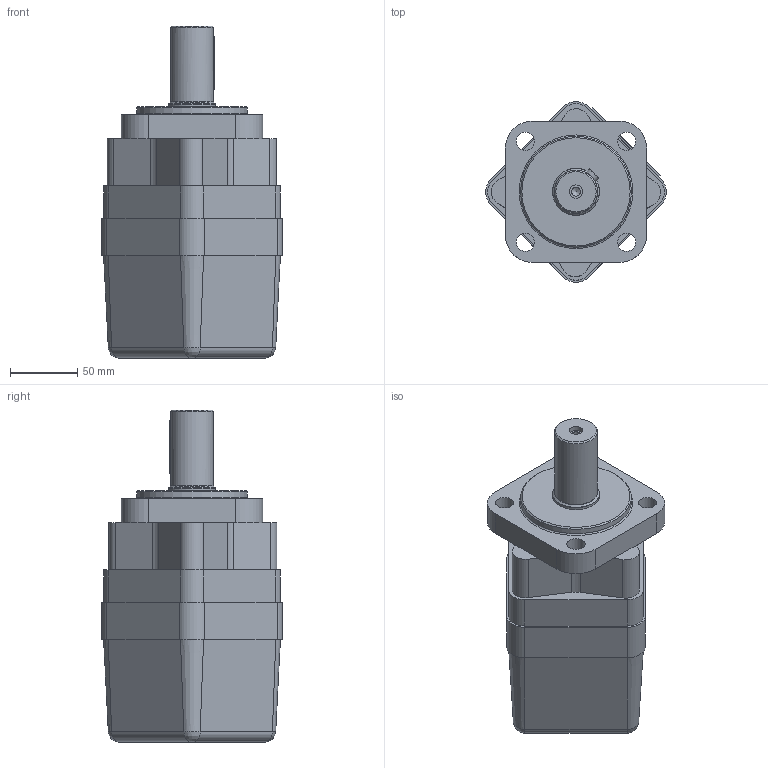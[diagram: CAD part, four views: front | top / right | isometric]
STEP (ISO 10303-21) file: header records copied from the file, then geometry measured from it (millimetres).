
FILE_DESCRIPTION((''),'2;1');
FILE_NAME('E:\Users\crisanl\Desktop\oms160.stp','2012-03-09T08:53:23',('CrisanL'),(''),'Autodesk Inventor 2011','Autodesk Inventor 2011','');
FILE_SCHEMA(('AUTOMOTIVE_DESIGN { 1 0 10303 214 1 1 1 1 }'));
Length unit declared in the file: millimetre
Products named in the file (1): 0221272M
Bounding box: 134.38 x 134.38 x 247 mm (x, y, z)
Volume: 1756753.1 mm3; surface area: 111396 mm2
Topology: 2 solids, 2 shells, 121 faces, 302 edges, 194 vertices
Faces by surface type: plane 56, cylinder 45, cone 13, bspline 4, torus 3
Full cylindrical faces by diameter (mm): 6.647 x1, 8.376 x2, 10 x1, 11.445 x1, 13.5 x4, 19.5 x2, 20 x1, 32 x1, 35 x1, 82.5 x1
Entity records: 3555 total; most frequent: CARTESIAN_POINT 719, DIRECTION 601, ORIENTED_EDGE 528, EDGE_CURVE 264, AXIS2_PLACEMENT_3D 225, VERTEX_POINT 183, EDGE_LOOP 165, VECTOR 151
